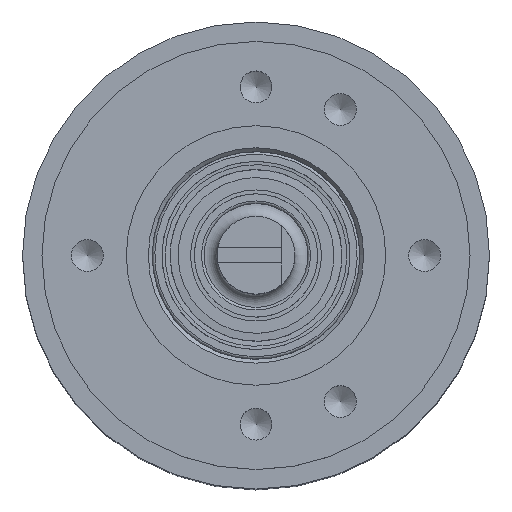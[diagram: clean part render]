
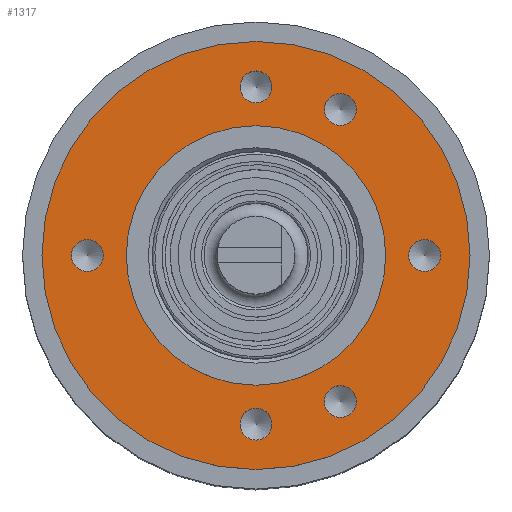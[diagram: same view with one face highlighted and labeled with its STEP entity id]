
A CAD part, top view. The second image highlights one B-rep face of the part: STEP entity #1317.
In plain terms, the highlighted planar face has unit normal (0, 0, 1).
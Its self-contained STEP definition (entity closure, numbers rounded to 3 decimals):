
#83 = EDGE_LOOP ( 'NONE', ( #8971 ) ) ;
#85 = EDGE_CURVE ( 'NONE', #7430, #7430, #8725, .T. ) ;
#131 = CIRCLE ( 'NONE', #546, 1.23 ) ;
#281 = ORIENTED_EDGE ( 'NONE', *, *, #6620, .F. ) ;
#282 = ORIENTED_EDGE ( 'NONE', *, *, #11804, .T. ) ;
#311 = DIRECTION ( 'NONE',  ( -1., 0., 0. ) ) ;
#359 = AXIS2_PLACEMENT_3D ( 'NONE', #12896, #7804, #7079 ) ;
#374 = CARTESIAN_POINT ( 'NONE',  ( -47.631, -19.752, 8.622 ) ) ;
#546 = AXIS2_PLACEMENT_3D ( 'NONE', #3622, #4442, #8784 ) ;
#782 = EDGE_LOOP ( 'NONE', ( #1292 ) ) ;
#1235 = DIRECTION ( 'NONE',  ( 0., 0., -1. ) ) ;
#1292 = ORIENTED_EDGE ( 'NONE', *, *, #6650, .T. ) ;
#1317 = ADVANCED_FACE ( 'NONE', ( #2744, #6767, #6837, #10921, #9782, #7898, #8642, #1714 ), #5638, .F. ) ;
#1319 = VERTEX_POINT ( 'NONE', #12657 ) ;
#1338 = CIRCLE ( 'NONE', #2425, 1.23 ) ;
#1403 = AXIS2_PLACEMENT_3D ( 'NONE', #8738, #9537, #9805 ) ;
#1650 = VERTEX_POINT ( 'NONE', #4902 ) ;
#1714 = FACE_BOUND ( 'NONE', #5466, .T. ) ;
#2199 = AXIS2_PLACEMENT_3D ( 'NONE', #6416, #1235, #12502 ) ;
#2419 = CARTESIAN_POINT ( 'NONE',  ( -20.401, -19.752, 8.622 ) ) ;
#2425 = AXIS2_PLACEMENT_3D ( 'NONE', #8435, #7442, #9441 ) ;
#2551 = DIRECTION ( 'NONE',  ( 0., 0., -1. ) ) ;
#2609 = CARTESIAN_POINT ( 'NONE',  ( -33.401, -19.752, 8.622 ) ) ;
#2744 = FACE_OUTER_BOUND ( 'NONE', #12178, .T. ) ;
#2950 = DIRECTION ( 'NONE',  ( 0., 0., 1. ) ) ;
#3120 = CIRCLE ( 'NONE', #7618, 1.23 ) ;
#3273 = VERTEX_POINT ( 'NONE', #7173 ) ;
#3423 = EDGE_CURVE ( 'NONE', #3273, #3273, #8195, .T. ) ;
#3526 = CARTESIAN_POINT ( 'NONE',  ( -46.401, -19.752, 8.622 ) ) ;
#3622 = CARTESIAN_POINT ( 'NONE',  ( -26.901, -31.01, 8.622 ) ) ;
#3702 = AXIS2_PLACEMENT_3D ( 'NONE', #9311, #2950, #11395 ) ;
#3814 = VERTEX_POINT ( 'NONE', #3935 ) ;
#3893 = EDGE_LOOP ( 'NONE', ( #5216 ) ) ;
#3935 = CARTESIAN_POINT ( 'NONE',  ( -28.131, -31.01, 8.622 ) ) ;
#4442 = DIRECTION ( 'NONE',  ( 0., 0., -1. ) ) ;
#4564 = CIRCLE ( 'NONE', #3702, 10. ) ;
#4902 = CARTESIAN_POINT ( 'NONE',  ( -23.401, -19.752, 8.622 ) ) ;
#5216 = ORIENTED_EDGE ( 'NONE', *, *, #85, .T. ) ;
#5466 = EDGE_LOOP ( 'NONE', ( #281 ) ) ;
#5638 = PLANE ( 'NONE',  #5956 ) ;
#5780 = EDGE_CURVE ( 'NONE', #1319, #1319, #7211, .T. ) ;
#5956 = AXIS2_PLACEMENT_3D ( 'NONE', #2609, #2551, #6702 ) ;
#6111 = EDGE_LOOP ( 'NONE', ( #282 ) ) ;
#6127 = ORIENTED_EDGE ( 'NONE', *, *, #5780, .F. ) ;
#6388 = DIRECTION ( 'NONE',  ( -1., 0., 0. ) ) ;
#6416 = CARTESIAN_POINT ( 'NONE',  ( -33.401, -32.752, 8.622 ) ) ;
#6620 = EDGE_CURVE ( 'NONE', #1650, #1650, #4564, .T. ) ;
#6650 = EDGE_CURVE ( 'NONE', #8976, #8976, #1338, .T. ) ;
#6702 = DIRECTION ( 'NONE',  ( 1., 0., 0. ) ) ;
#6767 = FACE_BOUND ( 'NONE', #3893, .T. ) ;
#6837 = FACE_BOUND ( 'NONE', #12557, .T. ) ;
#7079 = DIRECTION ( 'NONE',  ( -1., 0., 0. ) ) ;
#7173 = CARTESIAN_POINT ( 'NONE',  ( -34.631, -32.752, 8.622 ) ) ;
#7198 = EDGE_LOOP ( 'NONE', ( #12306 ) ) ;
#7211 = CIRCLE ( 'NONE', #1403, 16.5 ) ;
#7430 = VERTEX_POINT ( 'NONE', #9566 ) ;
#7442 = DIRECTION ( 'NONE',  ( 0., 0., -1. ) ) ;
#7573 = EDGE_CURVE ( 'NONE', #3814, #3814, #131, .T. ) ;
#7618 = AXIS2_PLACEMENT_3D ( 'NONE', #3526, #9506, #311 ) ;
#7619 = VERTEX_POINT ( 'NONE', #374 ) ;
#7746 = CARTESIAN_POINT ( 'NONE',  ( -21.631, -19.752, 8.622 ) ) ;
#7804 = DIRECTION ( 'NONE',  ( 0., 0., -1. ) ) ;
#7898 = FACE_BOUND ( 'NONE', #782, .T. ) ;
#8010 = VERTEX_POINT ( 'NONE', #7746 ) ;
#8195 = CIRCLE ( 'NONE', #2199, 1.23 ) ;
#8435 = CARTESIAN_POINT ( 'NONE',  ( -33.401, -6.752, 8.622 ) ) ;
#8642 = FACE_BOUND ( 'NONE', #83, .T. ) ;
#8725 = CIRCLE ( 'NONE', #359, 1.23 ) ;
#8738 = CARTESIAN_POINT ( 'NONE',  ( -33.401, -19.752, 8.622 ) ) ;
#8784 = DIRECTION ( 'NONE',  ( -1., 0., 0. ) ) ;
#8906 = AXIS2_PLACEMENT_3D ( 'NONE', #2419, #9654, #6388 ) ;
#8971 = ORIENTED_EDGE ( 'NONE', *, *, #7573, .T. ) ;
#8976 = VERTEX_POINT ( 'NONE', #13053 ) ;
#9311 = CARTESIAN_POINT ( 'NONE',  ( -33.401, -19.752, 8.622 ) ) ;
#9441 = DIRECTION ( 'NONE',  ( -1., 0., 0. ) ) ;
#9506 = DIRECTION ( 'NONE',  ( 0., 0., -1. ) ) ;
#9537 = DIRECTION ( 'NONE',  ( 0., 0., -1. ) ) ;
#9547 = CIRCLE ( 'NONE', #8906, 1.23 ) ;
#9566 = CARTESIAN_POINT ( 'NONE',  ( -28.131, -8.494, 8.622 ) ) ;
#9654 = DIRECTION ( 'NONE',  ( 0., 0., -1. ) ) ;
#9782 = FACE_BOUND ( 'NONE', #7198, .T. ) ;
#9805 = DIRECTION ( 'NONE',  ( 1., 0., 0. ) ) ;
#10775 = EDGE_CURVE ( 'NONE', #7619, #7619, #3120, .T. ) ;
#10921 = FACE_BOUND ( 'NONE', #6111, .T. ) ;
#11364 = ORIENTED_EDGE ( 'NONE', *, *, #10775, .T. ) ;
#11395 = DIRECTION ( 'NONE',  ( 1., 0., 0. ) ) ;
#11804 = EDGE_CURVE ( 'NONE', #8010, #8010, #9547, .T. ) ;
#12178 = EDGE_LOOP ( 'NONE', ( #6127 ) ) ;
#12306 = ORIENTED_EDGE ( 'NONE', *, *, #3423, .T. ) ;
#12502 = DIRECTION ( 'NONE',  ( -1., 0., 0. ) ) ;
#12557 = EDGE_LOOP ( 'NONE', ( #11364 ) ) ;
#12657 = CARTESIAN_POINT ( 'NONE',  ( -16.901, -19.752, 8.622 ) ) ;
#12896 = CARTESIAN_POINT ( 'NONE',  ( -26.901, -8.494, 8.622 ) ) ;
#13053 = CARTESIAN_POINT ( 'NONE',  ( -34.631, -6.752, 8.622 ) ) ;
